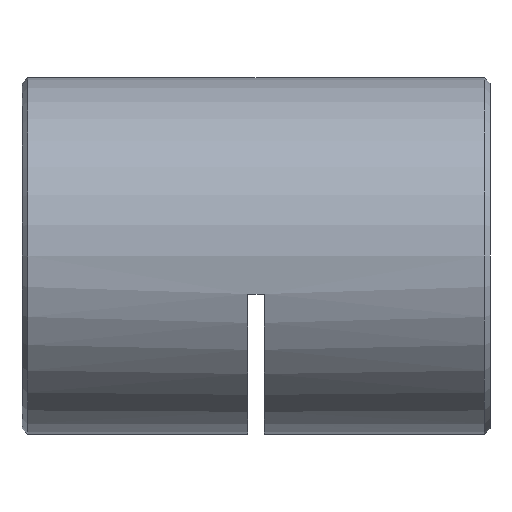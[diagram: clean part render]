
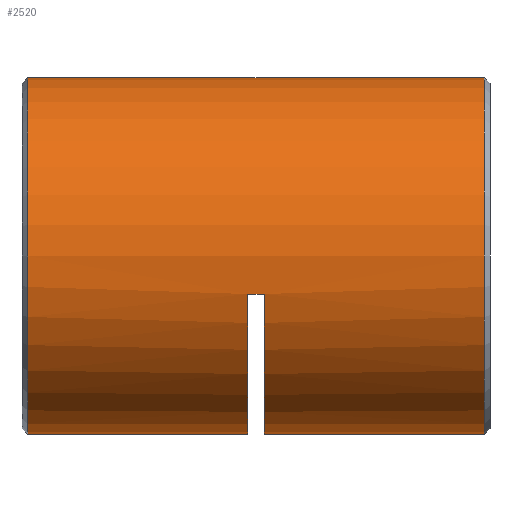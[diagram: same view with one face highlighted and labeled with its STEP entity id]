
A CAD part, left-side view. The second image highlights one B-rep face of the part: STEP entity #2520.
In plain terms, the highlighted cylindrical face has radius 16 mm (diameter 32 mm), a partial arc.
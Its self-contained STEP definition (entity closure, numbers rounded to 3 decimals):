
#34 = DIRECTION ( 'NONE',  ( 0., -1., 0. ) ) ;
#481 = AXIS2_PLACEMENT_3D ( 'NONE', #3068, #4054, #2196 ) ;
#621 = VERTEX_POINT ( 'NONE', #5287 ) ;
#642 = DIRECTION ( 'NONE',  ( 0., 0., -1. ) ) ;
#786 = CARTESIAN_POINT ( 'NONE',  ( 0., 42.5, 0. ) ) ;
#913 = DIRECTION ( 'NONE',  ( 0., -1., 0. ) ) ;
#1008 = CARTESIAN_POINT ( 'NONE',  ( -15.632, 21.25, -3.413 ) ) ;
#1043 = VERTEX_POINT ( 'NONE', #2662 ) ;
#1048 = CARTESIAN_POINT ( 'NONE',  ( 0., 20.5, 0. ) ) ;
#1065 = CARTESIAN_POINT ( 'NONE',  ( 0., 0.75, -16. ) ) ;
#1067 = CARTESIAN_POINT ( 'NONE',  ( 0., 22., 0. ) ) ;
#1192 = EDGE_CURVE ( 'NONE', #1043, #2525, #4142, .T. ) ;
#1235 = AXIS2_PLACEMENT_3D ( 'NONE', #786, #4244, #3770 ) ;
#1241 = VERTEX_POINT ( 'NONE', #1709 ) ;
#1405 = ORIENTED_EDGE ( 'NONE', *, *, #1469, .F. ) ;
#1469 = EDGE_CURVE ( 'NONE', #1043, #1241, #1599, .T. ) ;
#1514 = ORIENTED_EDGE ( 'NONE', *, *, #1562, .T. ) ;
#1562 = EDGE_CURVE ( 'NONE', #4288, #4697, #3595, .T. ) ;
#1587 = DIRECTION ( 'NONE',  ( 0., -1., 0. ) ) ;
#1591 = ORIENTED_EDGE ( 'NONE', *, *, #3012, .T. ) ;
#1599 = CIRCLE ( 'NONE', #5577, 16. ) ;
#1630 = CARTESIAN_POINT ( 'NONE',  ( 0., 20.5, -16. ) ) ;
#1709 = CARTESIAN_POINT ( 'NONE',  ( 0., 22., -16. ) ) ;
#1834 = EDGE_CURVE ( 'NONE', #5054, #4697, #5197, .T. ) ;
#2005 = ORIENTED_EDGE ( 'NONE', *, *, #3844, .T. ) ;
#2061 = ORIENTED_EDGE ( 'NONE', *, *, #1834, .F. ) ;
#2082 = EDGE_CURVE ( 'NONE', #2525, #2800, #2143, .T. ) ;
#2143 = CIRCLE ( 'NONE', #4108, 16. ) ;
#2196 = DIRECTION ( 'NONE',  ( 0., 0., 1. ) ) ;
#2227 = ORIENTED_EDGE ( 'NONE', *, *, #2625, .T. ) ;
#2293 = AXIS2_PLACEMENT_3D ( 'NONE', #4859, #5817, #3325 ) ;
#2447 = ORIENTED_EDGE ( 'NONE', *, *, #1192, .T. ) ;
#2520 = ADVANCED_FACE ( 'NONE', ( #5337 ), #3365, .T. ) ;
#2525 = VERTEX_POINT ( 'NONE', #2786 ) ;
#2625 = EDGE_CURVE ( 'NONE', #621, #1241, #3516, .T. ) ;
#2662 = CARTESIAN_POINT ( 'NONE',  ( -15.632, 22., -3.413 ) ) ;
#2670 = VECTOR ( 'NONE', #3752, 1000. ) ;
#2750 = VECTOR ( 'NONE', #5986, 1000. ) ;
#2786 = CARTESIAN_POINT ( 'NONE',  ( -15.632, 20.5, -3.413 ) ) ;
#2800 = VERTEX_POINT ( 'NONE', #1630 ) ;
#2804 = EDGE_LOOP ( 'NONE', ( #2061, #2005, #2227, #1405, #2447, #4114, #1591, #1514 ) ) ;
#2838 = VECTOR ( 'NONE', #34, 1000. ) ;
#2969 = LINE ( 'NONE', #3773, #2670 ) ;
#3012 = EDGE_CURVE ( 'NONE', #2800, #4288, #2969, .T. ) ;
#3068 = CARTESIAN_POINT ( 'NONE',  ( 0., 0.75, 0. ) ) ;
#3325 = DIRECTION ( 'NONE',  ( 0., 0., -1. ) ) ;
#3365 = CYLINDRICAL_SURFACE ( 'NONE', #1235, 16. ) ;
#3516 = LINE ( 'NONE', #4476, #2750 ) ;
#3554 = DIRECTION ( 'NONE',  ( 0., -1., 0. ) ) ;
#3595 = CIRCLE ( 'NONE', #481, 16. ) ;
#3752 = DIRECTION ( 'NONE',  ( 0., -1., 0. ) ) ;
#3755 = CIRCLE ( 'NONE', #2293, 16. ) ;
#3770 = DIRECTION ( 'NONE',  ( 0., 0., -1. ) ) ;
#3773 = CARTESIAN_POINT ( 'NONE',  ( 0., 42.5, -16. ) ) ;
#3844 = EDGE_CURVE ( 'NONE', #5054, #621, #3755, .T. ) ;
#4054 = DIRECTION ( 'NONE',  ( 0., 1., 0. ) ) ;
#4108 = AXIS2_PLACEMENT_3D ( 'NONE', #1048, #1587, #642 ) ;
#4114 = ORIENTED_EDGE ( 'NONE', *, *, #2082, .T. ) ;
#4142 = LINE ( 'NONE', #1008, #2838 ) ;
#4244 = DIRECTION ( 'NONE',  ( 0., -1., 0. ) ) ;
#4281 = CARTESIAN_POINT ( 'NONE',  ( 0., 42.5, 16. ) ) ;
#4288 = VERTEX_POINT ( 'NONE', #1065 ) ;
#4476 = CARTESIAN_POINT ( 'NONE',  ( 0., 42.5, -16. ) ) ;
#4506 = DIRECTION ( 'NONE',  ( 0., 0., -1. ) ) ;
#4670 = VECTOR ( 'NONE', #913, 1000. ) ;
#4697 = VERTEX_POINT ( 'NONE', #5274 ) ;
#4859 = CARTESIAN_POINT ( 'NONE',  ( 0., 41.75, 0. ) ) ;
#5054 = VERTEX_POINT ( 'NONE', #5533 ) ;
#5197 = LINE ( 'NONE', #4281, #4670 ) ;
#5274 = CARTESIAN_POINT ( 'NONE',  ( 0., 0.75, 16. ) ) ;
#5287 = CARTESIAN_POINT ( 'NONE',  ( 0., 41.75, -16. ) ) ;
#5337 = FACE_OUTER_BOUND ( 'NONE', #2804, .T. ) ;
#5533 = CARTESIAN_POINT ( 'NONE',  ( 0., 41.75, 16. ) ) ;
#5577 = AXIS2_PLACEMENT_3D ( 'NONE', #1067, #3554, #4506 ) ;
#5817 = DIRECTION ( 'NONE',  ( 0., -1., 0. ) ) ;
#5986 = DIRECTION ( 'NONE',  ( 0., -1., 0. ) ) ;
